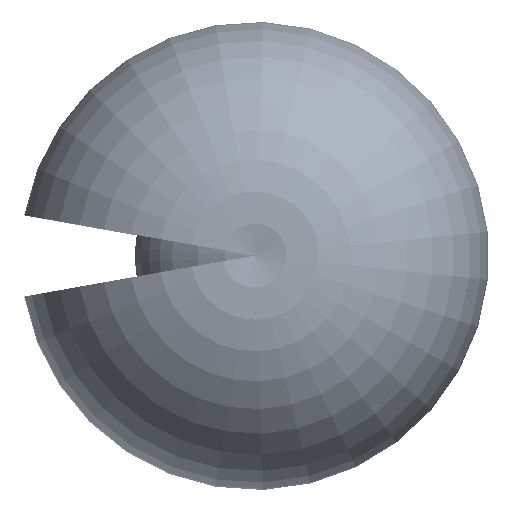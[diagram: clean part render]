
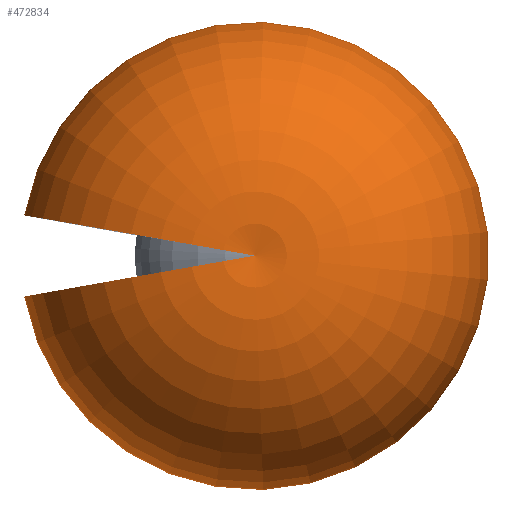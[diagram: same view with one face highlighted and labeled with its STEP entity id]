
A CAD part, top view. The second image highlights one B-rep face of the part: STEP entity #472834.
In plain terms, the highlighted toroidal (fillet/blend) face has major radius 690 mm and minor radius 3212.88 mm.
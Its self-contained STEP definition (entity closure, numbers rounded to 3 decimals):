
#11811 = TOROIDAL_SURFACE ( 'NONE', #312296, 690., 3212.875 ) ;
#12019 = DIRECTION ( 'NONE',  ( 0., 0., -1. ) ) ;
#38000 = VERTEX_POINT ( 'NONE', #417111 ) ;
#40301 = ORIENTED_EDGE ( 'NONE', *, *, #488164, .F. ) ;
#59290 = EDGE_CURVE ( 'NONE', #498644, #159259, #252422, .T. ) ;
#72489 = ORIENTED_EDGE ( 'NONE', *, *, #59290, .T. ) ;
#106160 = EDGE_CURVE ( 'NONE', #498644, #38000, #135813, .T. ) ;
#125211 = DIRECTION ( 'NONE',  ( 0.174, -0.985, 0. ) ) ;
#126039 = EDGE_LOOP ( 'NONE', ( #40301, #131604, #72489 ) ) ;
#131604 = ORIENTED_EDGE ( 'NONE', *, *, #106160, .F. ) ;
#135813 = CIRCLE ( 'NONE', #200672, 3212.875 ) ;
#159259 = VERTEX_POINT ( 'NONE', #218363 ) ;
#173776 = CIRCLE ( 'NONE', #182462, 1788.868 ) ;
#181472 = FACE_OUTER_BOUND ( 'NONE', #126039, .T. ) ;
#182462 = AXIS2_PLACEMENT_3D ( 'NONE', #479667, #12019, #243361 ) ;
#200672 = AXIS2_PLACEMENT_3D ( 'NONE', #482843, #406648, #485360 ) ;
#218363 = CARTESIAN_POINT ( 'NONE',  ( -1761.691, -310.634, -2489.115 ) ) ;
#243361 = DIRECTION ( 'NONE',  ( -1., 0., 0. ) ) ;
#252422 = CIRCLE ( 'NONE', #447228, 3212.875 ) ;
#295806 = CARTESIAN_POINT ( 'NONE',  ( 0., 0., 530. ) ) ;
#312296 = AXIS2_PLACEMENT_3D ( 'NONE', #295806, #336439, #453410 ) ;
#336439 = DIRECTION ( 'NONE',  ( 0., 0., -1. ) ) ;
#406648 = DIRECTION ( 'NONE',  ( -0.174, -0.985, 0. ) ) ;
#417111 = CARTESIAN_POINT ( 'NONE',  ( -1761.691, 310.634, -2489.115 ) ) ;
#437685 = DIRECTION ( 'NONE',  ( 0., 0., 1. ) ) ;
#447228 = AXIS2_PLACEMENT_3D ( 'NONE', #468385, #125211, #437685 ) ;
#453410 = DIRECTION ( 'NONE',  ( -1., 0., 0. ) ) ;
#464337 = CARTESIAN_POINT ( 'NONE',  ( 0., 0., 3667.908 ) ) ;
#468385 = CARTESIAN_POINT ( 'NONE',  ( -679.517, -119.817, 530. ) ) ;
#472834 = ADVANCED_FACE ( 'NONE', ( #181472 ), #11811, .T. ) ;
#479667 = CARTESIAN_POINT ( 'NONE',  ( 0., 0., -2489.115 ) ) ;
#482843 = CARTESIAN_POINT ( 'NONE',  ( -679.517, 119.817, 530. ) ) ;
#485360 = DIRECTION ( 'NONE',  ( 0., 0., 1. ) ) ;
#488164 = EDGE_CURVE ( 'NONE', #38000, #159259, #173776, .T. ) ;
#498644 = VERTEX_POINT ( 'NONE', #464337 ) ;
